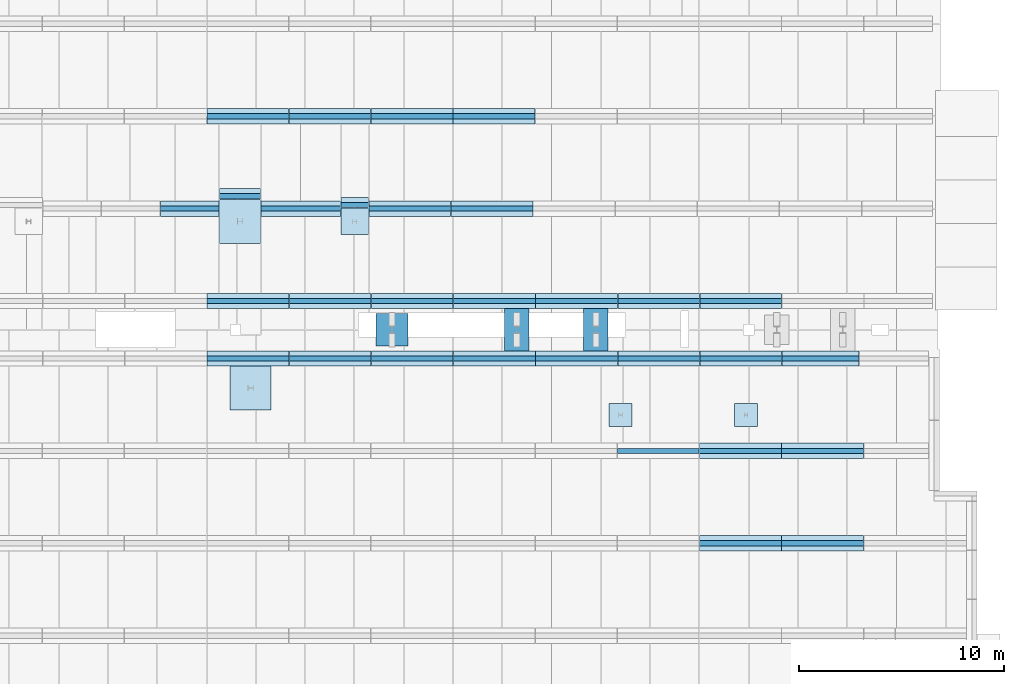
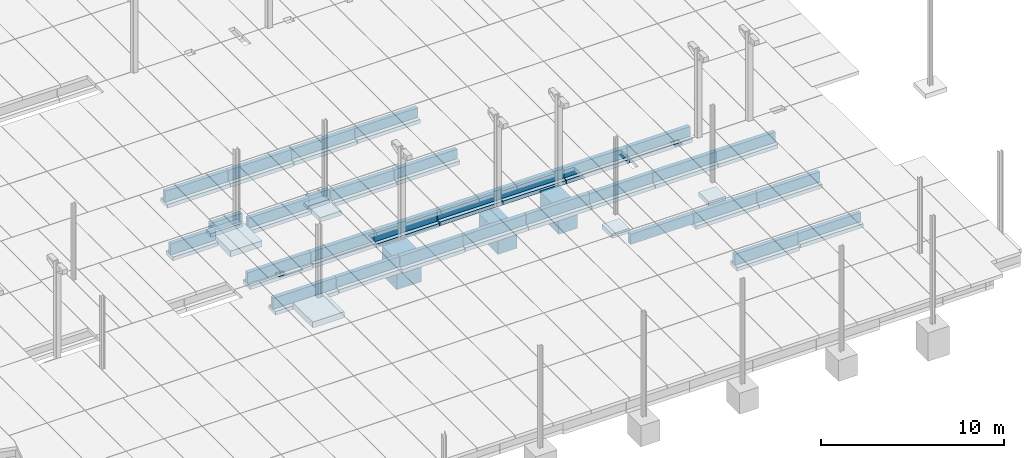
# One storey, part 4 of 59: 67 footings.
"""IFC2X3 building model written with IfcOpenShell, lengths in metres."""

from ifc_helpers import new_model, entity, si_unit, converted_unit, derived_unit, frame, frame_2d, origin, origin_with_axes, place, context, subcontext, project, spatial, polyline, rectangle, extrude, clip, bounded_halfspace, material, element, save


model = new_model("IFC2X3")

# Units and contexts
model_context = context("Model", 3, precision=1e-05, world=origin())
body_context = subcontext(model_context, "Body", "Model", "MODEL_VIEW")
ifc_project = project(units=[si_unit("LENGTHUNIT", "METRE"), si_unit("AREAUNIT", "SQUARE_METRE"), si_unit("VOLUMEUNIT", "CUBIC_METRE"), si_unit("MASSUNIT", "GRAM", prefix="KILO"), converted_unit("PLANEANGLEUNIT", "DEGREE", entity("IfcPlaneAngleMeasure", 0.0174532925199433), si_unit("PLANEANGLEUNIT", "RADIAN"), dimensions=[0, 0, 0, 0, 0, 0, 0]), derived_unit("THERMALTRANSMITTANCEUNIT", [(si_unit("POWERUNIT", "WATT"), 1), (si_unit("THERMODYNAMICTEMPERATUREUNIT", "KELVIN"), -1), (si_unit("LENGTHUNIT", "METRE"), -2)]), derived_unit("VOLUMETRICFLOWRATEUNIT", [(si_unit("LENGTHUNIT", "METRE"), 3), (converted_unit("TIMEUNIT", "hour", entity("IfcTimeMeasure", 3600.0), si_unit("TIMEUNIT", "SECOND"), dimensions=[0, 0, 1, 0, 0, 0, 0]), -1), (si_unit("LENGTHUNIT", "METRE"), -1)])], contexts=[model_context])

# Site, building, storey
site_placement = place(None, origin())
site = spatial("IfcSite", under=ifc_project, at=site_placement, Name="TWP_Speiseverteilzentrum SBW VZ II", CompositionType="ELEMENT")
building_placement = place(site_placement, origin())
building = spatial("IfcBuilding", under=site, at=building_placement, Name="Speiseverteilzentrum SBW VZ II", CompositionType="ELEMENT")
storey_placement = place(building_placement, frame((0.0, 0.0, 1.7307)))
storey = spatial("IfcBuildingStorey", under=building, at=storey_placement, Name="EG_Produktion_FFB", CompositionType="ELEMENT", Elevation=1.7307)

# Footings
ifc_material_1 = material(Name="Stahlbeton")
footing_1_placement = place(storey_placement, frame((59.3095236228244, 26.099939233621, -1.4)))
element("IfcFooting", 1, at=footing_1_placement, inside=storey, material=ifc_material_1, Name="Stb.-Einzelfundament", ObjectType="COLUMN_FOUNDATION", PredefinedType="USERDEFINED", context=body_context, shape_type="SweptSolid", body=[
    extrude(rectangle(XDim=1.1, YDim=1.1, at=frame_2d((0.55, 0.55), x_axis=(1.0, 0.0))), origin_with_axes(), (0.0, 0.0, 1.0), 0.3),
])
ifc_material_2 = material(Name="Stahlbeton")
footing_2_placement = place(storey_placement, frame((53.2, 26.099939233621, -1.4)))
element("IfcFooting", 2, at=footing_2_placement, inside=storey, material=ifc_material_2, Name="Stb.-Einzelfundament", ObjectType="COLUMN_FOUNDATION", PredefinedType="USERDEFINED", context=body_context, shape_type="SweptSolid", body=[
    extrude(rectangle(XDim=1.1, YDim=1.1, at=frame_2d((0.55, 0.55), x_axis=(1.0, 0.0))), origin_with_axes(), (0.0, 0.0, 1.0), 0.3),
])
ifc_material_3 = material(Name="Stahlbeton")
footing_3_placement = place(storey_placement, frame((34.7347565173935, 26.8849286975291, -1.4)))
element("IfcFooting", 3, at=footing_3_placement, inside=storey, material=ifc_material_3, Name="Stb.-Einzelfundament", ObjectType="COLUMN_FOUNDATION", PredefinedType="USERDEFINED", context=body_context, shape_type="Clipping", body=[
    clip(extrude(rectangle(XDim=2.0, YDim=2.15, at=frame_2d((1.0, 1.075), x_axis=(1.0, 0.0))), origin_with_axes(), (0.0, 0.0, 1.0), 0.4), bounded_halfspace(frame((1.0, 2.14503565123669, 0.2), z_axis=(0.0, 0.0, 1.0), x_axis=(1.0, 0.0, 0.0)), True, origin_with_axes(), polyline([(0.0, 2.14007130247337), (2.0, 2.14007130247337), (2.0, 2.15), (0.0, 2.15), (0.0, 2.14007130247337)]))),
])
ifc_material_4 = material(Name="Stahlbetonfertigteil")
footing_4_placement = place(storey_placement, frame((57.5999999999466, 24.5250000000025, -1.4)))
element("IfcFooting", 4, at=footing_4_placement, inside=storey, material=ifc_material_4, Name="Stahlbetonfertigteilfundament", PredefinedType="STRIP_FOOTING", context=body_context, shape_type="SweptSolid", body=[
    extrude(rectangle(XDim=0.75, YDim=0.25, at=frame_2d((0.375, 0.125), x_axis=(1.0, 0.0))), frame((0.0, 0.0, 0.0), z_axis=(1.0, 0.0, 0.0), x_axis=(0.0, 1.0, 0.0)), (0.0, 0.0, 1.0), 3.98),
])
ifc_material_5 = material(Name="Stahlbetonfertigteil")
footing_5_placement = place(storey_placement, frame((61.5999999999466, 24.5250000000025, -1.4)))
element("IfcFooting", 5, at=footing_5_placement, inside=storey, material=ifc_material_5, Name="Stahlbetonfertigteilfundament", PredefinedType="STRIP_FOOTING", context=body_context, shape_type="SweptSolid", body=[
    extrude(rectangle(XDim=0.75, YDim=0.25, at=frame_2d((0.375, 0.125), x_axis=(1.0, 0.0))), frame((0.0, 0.0, 0.0), z_axis=(1.0, 0.0, 0.0), x_axis=(0.0, 1.0, 0.0)), (0.0, 0.0, 1.0), 3.98),
])
ifc_material_6 = material(Name="Stahlbetonfertigteil")
footing_6_placement = place(storey_placement, frame((61.5999999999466, 24.7750000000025, -1.15)))
element("IfcFooting", 6, at=footing_6_placement, inside=storey, material=ifc_material_6, Name="Stahlbetonfertigteilfundament", PredefinedType="STRIP_FOOTING", context=body_context, shape_type="SweptSolid", body=[
    extrude(rectangle(XDim=0.25, YDim=0.68, at=frame_2d((0.125, 0.34), x_axis=(1.0, 0.0))), frame((0.0, 0.0, 0.0), z_axis=(1.0, 0.0, 0.0), x_axis=(0.0, 1.0, 0.0)), (0.0, 0.0, 1.0), 3.98),
])
ifc_material_7 = material(Name="Stahlbetonfertigteil")
footing_7_placement = place(storey_placement, frame((57.5999999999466, 24.7750000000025, -1.15)))
element("IfcFooting", 7, at=footing_7_placement, inside=storey, material=ifc_material_7, Name="Stahlbetonfertigteilfundament", PredefinedType="STRIP_FOOTING", context=body_context, shape_type="SweptSolid", body=[
    extrude(rectangle(XDim=0.25, YDim=0.68, at=frame_2d((0.125, 0.34), x_axis=(1.0, 0.0))), frame((0.0, 0.0, 0.0), z_axis=(1.0, 0.0, 0.0), x_axis=(0.0, 1.0, 0.0)), (0.0, 0.0, 1.0), 3.98),
])
ifc_material_8 = material(Name="Stahlbetonfertigteil")
footing_8_placement = place(storey_placement, frame((53.5999999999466, 24.7750000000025, -1.15)))
element("IfcFooting", 8, at=footing_8_placement, inside=storey, material=ifc_material_8, Name="Stahlbetonfertigteilfundament", PredefinedType="STRIP_FOOTING", context=body_context, shape_type="SweptSolid", body=[
    extrude(rectangle(XDim=0.25, YDim=0.68, at=frame_2d((0.125, 0.34), x_axis=(1.0, 0.0))), frame((0.0, 0.0, 0.0), z_axis=(1.0, 0.0, 0.0), x_axis=(0.0, 1.0, 0.0)), (0.0, 0.0, 1.0), 3.98),
])
ifc_material_9 = material(Name="Stahlbetonfertigteil")
footing_9_placement = place(storey_placement, frame((61.5999999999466, 20.2750000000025, -1.05)))
element("IfcFooting", 9, at=footing_9_placement, inside=storey, material=ifc_material_9, Name="Stahlbetonfertigteilfundament", PredefinedType="STRIP_FOOTING", context=body_context, shape_type="SweptSolid", body=[
    extrude(rectangle(XDim=0.25, YDim=0.58, at=frame_2d((0.125, 0.29), x_axis=(1.0, 0.0))), frame((0.0, 0.0, 0.0), z_axis=(1.0, 0.0, 0.0), x_axis=(0.0, 1.0, 0.0)), (0.0, 0.0, 1.0), 3.98),
])
ifc_material_10 = material(Name="Stahlbetonfertigteil")
footing_10_placement = place(storey_placement, frame((61.5999999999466, 20.0250000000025, -1.3)))
element("IfcFooting", 10, at=footing_10_placement, inside=storey, material=ifc_material_10, Name="Stahlbetonfertigteilfundament", PredefinedType="STRIP_FOOTING", context=body_context, shape_type="SweptSolid", body=[
    extrude(rectangle(XDim=0.75, YDim=0.25, at=frame_2d((0.375, 0.125), x_axis=(1.0, 0.0))), frame((0.0, 0.0, 0.0), z_axis=(1.0, 0.0, 0.0), x_axis=(0.0, 1.0, 0.0)), (0.0, 0.0, 1.0), 3.98),
])
ifc_material_11 = material(Name="Stahlbetonfertigteil")
footing_11_placement = place(storey_placement, frame((57.5999999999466, 20.0250000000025, -1.45)))
element("IfcFooting", 11, at=footing_11_placement, inside=storey, material=ifc_material_11, Name="Stahlbetonfertigteilfundament", PredefinedType="STRIP_FOOTING", context=body_context, shape_type="SweptSolid", body=[
    extrude(rectangle(XDim=0.75, YDim=0.25, at=frame_2d((0.375, 0.125), x_axis=(1.0, 0.0))), frame((0.0, 0.0, 0.0), z_axis=(1.0, 0.0, 0.0), x_axis=(0.0, 1.0, 0.0)), (0.0, 0.0, 1.0), 3.98),
])
ifc_material_12 = material(Name="Stahlbetonfertigteil")
footing_12_placement = place(storey_placement, frame((57.5999999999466, 20.2750000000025, -1.2)))
element("IfcFooting", 12, at=footing_12_placement, inside=storey, material=ifc_material_12, Name="Stahlbetonfertigteilfundament", PredefinedType="STRIP_FOOTING", context=body_context, shape_type="SweptSolid", body=[
    extrude(rectangle(XDim=0.25, YDim=0.73, at=frame_2d((0.125, 0.365), x_axis=(1.0, 0.0))), frame((0.0, 0.0, 0.0), z_axis=(1.0, 0.0, 0.0), x_axis=(0.0, 1.0, 0.0)), (0.0, 0.0, 1.0), 3.98),
])
ifc_material_13 = material(Name="Stahlbetonfertigteil")
footing_13_placement = place(storey_placement, frame((33.6199999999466, 29.2750000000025, -1.2)))
element("IfcFooting", 13, at=footing_13_placement, inside=storey, material=ifc_material_13, Name="Stahlbetonfertigteilfundament", PredefinedType="STRIP_FOOTING", context=body_context, shape_type="SweptSolid", body=[
    extrude(rectangle(XDim=0.25, YDim=0.73, at=frame_2d((0.125, 0.365), x_axis=(1.0, 0.0))), frame((0.0, 0.0, 0.0), z_axis=(1.0, 0.0, 0.0), x_axis=(0.0, 1.0, 0.0)), (0.0, 0.0, 1.0), 3.98),
])
ifc_material_14 = material(Name="Stahlbetonfertigteil")
footing_14_placement = place(storey_placement, frame((33.6200000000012, 31.8250000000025, -1.45)))
element("IfcFooting", 14, at=footing_14_placement, inside=storey, material=ifc_material_14, Name="Stahlbetonfertigteilfundament", PredefinedType="STRIP_FOOTING", context=body_context, shape_type="SweptSolid", body=[
    extrude(rectangle(XDim=0.75, YDim=0.25, at=frame_2d((0.375, 0.125), x_axis=(1.0, 0.0))), frame((0.0, 0.0, 0.0), z_axis=(1.0, 0.0, 0.0), x_axis=(0.0, 1.0, 0.0)), (0.0, 0.0, 1.0), 3.98),
])
ifc_material_15 = material(Name="Stahlbetonfertigteil")
footing_15_placement = place(storey_placement, frame((33.6200000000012, 32.0750000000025, -1.2)))
element("IfcFooting", 15, at=footing_15_placement, inside=storey, material=ifc_material_15, Name="Stahlbetonfertigteilfundament", PredefinedType="STRIP_FOOTING", context=body_context, shape_type="SweptSolid", body=[
    extrude(rectangle(XDim=0.25, YDim=0.73, at=frame_2d((0.125, 0.365), x_axis=(1.0, 0.0))), frame((0.0, 0.0, 0.0), z_axis=(1.0, 0.0, 0.0), x_axis=(0.0, 1.0, 0.0)), (0.0, 0.0, 1.0), 3.98),
])
ifc_material_16 = material(Name="Stahlbetonfertigteil")
footing_16_placement = place(storey_placement, frame((37.6200000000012, 31.8250000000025, -1.4)))
element("IfcFooting", 16, at=footing_16_placement, inside=storey, material=ifc_material_16, Name="Stahlbetonfertigteilfundament", PredefinedType="STRIP_FOOTING", context=body_context, shape_type="SweptSolid", body=[
    extrude(rectangle(XDim=0.75, YDim=0.25, at=frame_2d((0.375, 0.125), x_axis=(1.0, 0.0))), frame((0.0, 0.0, 0.0), z_axis=(1.0, 0.0, 0.0), x_axis=(0.0, 1.0, 0.0)), (0.0, 0.0, 1.0), 3.98),
])
ifc_material_17 = material(Name="Stahlbetonfertigteil")
footing_17_placement = place(storey_placement, frame((37.6200000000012, 32.0750000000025, -1.15)))
element("IfcFooting", 17, at=footing_17_placement, inside=storey, material=ifc_material_17, Name="Stahlbetonfertigteilfundament", PredefinedType="STRIP_FOOTING", context=body_context, shape_type="SweptSolid", body=[
    extrude(rectangle(XDim=0.25, YDim=0.68, at=frame_2d((0.125, 0.34), x_axis=(1.0, 0.0))), frame((0.0, 0.0, 0.0), z_axis=(1.0, 0.0, 0.0), x_axis=(0.0, 1.0, 0.0)), (0.0, 0.0, 1.0), 3.98),
])
ifc_material_18 = material(Name="Stahlbetonfertigteil")
footing_18_placement = place(storey_placement, frame((37.6199999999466, 29.0250000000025, -1.4)))
element("IfcFooting", 18, at=footing_18_placement, inside=storey, material=ifc_material_18, Name="Stahlbetonfertigteilfundament", PredefinedType="STRIP_FOOTING", context=body_context, shape_type="SweptSolid", body=[
    extrude(rectangle(XDim=0.75, YDim=0.25, at=frame_2d((0.375, 0.125), x_axis=(1.0, 0.0))), frame((0.0, 0.0, 0.0), z_axis=(1.0, 0.0, 0.0), x_axis=(0.0, 1.0, 0.0)), (0.0, 0.0, 1.0), 3.98),
])
ifc_material_19 = material(Name="Stahlbetonfertigteil")
footing_19_placement = place(storey_placement, frame((37.6199999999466, 29.2750000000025, -1.15)))
element("IfcFooting", 19, at=footing_19_placement, inside=storey, material=ifc_material_19, Name="Stahlbetonfertigteilfundament", PredefinedType="STRIP_FOOTING", context=body_context, shape_type="SweptSolid", body=[
    extrude(rectangle(XDim=0.25, YDim=0.68, at=frame_2d((0.125, 0.34), x_axis=(1.0, 0.0))), frame((0.0, 0.0, 0.0), z_axis=(1.0, 0.0, 0.0), x_axis=(0.0, 1.0, 0.0)), (0.0, 0.0, 1.0), 3.98),
])
ifc_material_20 = material(Name="Stahlbetonfertigteil")
footing_20_placement = place(storey_placement, frame((45.6199999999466, 32.0750000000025, -1.125)))
element("IfcFooting", 20, at=footing_20_placement, inside=storey, material=ifc_material_20, Name="Stahlbetonfertigteilfundament", PredefinedType="STRIP_FOOTING", context=body_context, shape_type="SweptSolid", body=[
    extrude(rectangle(XDim=0.25, YDim=0.655, at=frame_2d((0.125, 0.3275), x_axis=(1.0, 0.0))), frame((0.0, 0.0, 0.0), z_axis=(1.0, 0.0, 0.0), x_axis=(0.0, 1.0, 0.0)), (0.0, 0.0, 1.0), 3.98),
])
ifc_material_21 = material(Name="Stahlbetonfertigteil")
footing_21_placement = place(storey_placement, frame((49.6199999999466, 32.0750000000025, -1.125)))
element("IfcFooting", 21, at=footing_21_placement, inside=storey, material=ifc_material_21, Name="Stahlbetonfertigteilfundament", PredefinedType="STRIP_FOOTING", context=body_context, shape_type="SweptSolid", body=[
    extrude(rectangle(XDim=0.25, YDim=0.655, at=frame_2d((0.125, 0.3275), x_axis=(1.0, 0.0))), frame((0.0, 0.0, 0.0), z_axis=(1.0, 0.0, 0.0), x_axis=(0.0, 1.0, 0.0)), (0.0, 0.0, 1.0), 3.98),
])
ifc_material_22 = material(Name="Stahlbetonfertigteil")
footing_22_placement = place(storey_placement, frame((49.6199999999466, 29.0250000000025, -1.4)))
element("IfcFooting", 22, at=footing_22_placement, inside=storey, material=ifc_material_22, Name="Stahlbetonfertigteilfundament", PredefinedType="STRIP_FOOTING", context=body_context, shape_type="SweptSolid", body=[
    extrude(rectangle(XDim=0.75, YDim=0.25, at=frame_2d((0.375, 0.125), x_axis=(1.0, 0.0))), frame((0.0, 0.0, 0.0), z_axis=(1.0, 0.0, 0.0), x_axis=(0.0, 1.0, 0.0)), (0.0, 0.0, 1.0), 3.98),
])
ifc_material_23 = material(Name="Stahlbetonfertigteil")
footing_23_placement = place(storey_placement, frame((49.6199999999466, 29.2750000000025, -1.15)))
element("IfcFooting", 23, at=footing_23_placement, inside=storey, material=ifc_material_23, Name="Stahlbetonfertigteilfundament", PredefinedType="STRIP_FOOTING", context=body_context, shape_type="SweptSolid", body=[
    extrude(rectangle(XDim=0.25, YDim=0.68, at=frame_2d((0.125, 0.34), x_axis=(1.0, 0.0))), frame((0.0, 0.0, 0.0), z_axis=(1.0, 0.0, 0.0), x_axis=(0.0, 1.0, 0.0)), (0.0, 0.0, 1.0), 3.98),
])
ifc_material_24 = material(Name="Stahlbetonfertigteil")
footing_24_placement = place(storey_placement, frame((45.6199999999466, 29.2750000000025, -1.15)))
element("IfcFooting", 24, at=footing_24_placement, inside=storey, material=ifc_material_24, Name="Stahlbetonfertigteilfundament", PredefinedType="STRIP_FOOTING", context=body_context, shape_type="SweptSolid", body=[
    extrude(rectangle(XDim=0.25, YDim=0.68, at=frame_2d((0.125, 0.34), x_axis=(1.0, 0.0))), frame((0.0, 0.0, 0.0), z_axis=(1.0, 0.0, 0.0), x_axis=(0.0, 1.0, 0.0)), (0.0, 0.0, 1.0), 3.98),
])
ifc_material_25 = material(Name="Stahlbetonfertigteil")
footing_25_placement = place(storey_placement, frame((53.6199999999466, 32.0750000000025, -1.125)))
element("IfcFooting", 25, at=footing_25_placement, inside=storey, material=ifc_material_25, Name="Stahlbetonfertigteilfundament", PredefinedType="STRIP_FOOTING", context=body_context, shape_type="SweptSolid", body=[
    extrude(rectangle(XDim=0.25, YDim=0.655, at=frame_2d((0.125, 0.3275), x_axis=(1.0, 0.0))), frame((0.0, 0.0, 0.0), z_axis=(1.0, 0.0, 0.0), x_axis=(0.0, 1.0, 0.0)), (0.0, 0.0, 1.0), 3.98),
])
ifc_material_26 = material(Name="Stahlbetonfertigteil")
footing_26_placement = place(storey_placement, frame((53.6199999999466, 29.0250000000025, -1.4)))
element("IfcFooting", 26, at=footing_26_placement, inside=storey, material=ifc_material_26, Name="Stahlbetonfertigteilfundament", PredefinedType="STRIP_FOOTING", context=body_context, shape_type="SweptSolid", body=[
    extrude(rectangle(XDim=0.75, YDim=0.25, at=frame_2d((0.375, 0.125), x_axis=(1.0, 0.0))), frame((0.0, 0.0, 0.0), z_axis=(1.0, 0.0, 0.0), x_axis=(0.0, 1.0, 0.0)), (0.0, 0.0, 1.0), 3.98),
])
ifc_material_27 = material(Name="Stahlbetonfertigteil")
footing_27_placement = place(storey_placement, frame((53.6199999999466, 29.2750000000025, -1.15)))
element("IfcFooting", 27, at=footing_27_placement, inside=storey, material=ifc_material_27, Name="Stahlbetonfertigteilfundament", PredefinedType="STRIP_FOOTING", context=body_context, shape_type="SweptSolid", body=[
    extrude(rectangle(XDim=0.25, YDim=0.68, at=frame_2d((0.125, 0.34), x_axis=(1.0, 0.0))), frame((0.0, 0.0, 0.0), z_axis=(1.0, 0.0, 0.0), x_axis=(0.0, 1.0, 0.0)), (0.0, 0.0, 1.0), 3.98),
])
ifc_material_28 = material(Name="Stahlbetonfertigteil")
footing_28_placement = place(storey_placement, frame((53.6199999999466, 31.8250000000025, -1.375)))
element("IfcFooting", 28, at=footing_28_placement, inside=storey, material=ifc_material_28, Name="Stahlbetonfertigteilfundament", PredefinedType="STRIP_FOOTING", context=body_context, shape_type="SweptSolid", body=[
    extrude(rectangle(XDim=0.75, YDim=0.25, at=frame_2d((0.375, 0.125), x_axis=(1.0, 0.0))), frame((0.0, 0.0, 0.0), z_axis=(1.0, 0.0, 0.0), x_axis=(0.0, 1.0, 0.0)), (0.0, 0.0, 1.0), 3.98),
])
ifc_material_29 = material(Name="Stahlbetonfertigteil")
footing_29_placement = place(storey_placement, frame((57.6199999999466, 32.0750000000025, -1.125)))
element("IfcFooting", 29, at=footing_29_placement, inside=storey, material=ifc_material_29, Name="Stahlbetonfertigteilfundament", PredefinedType="STRIP_FOOTING", context=body_context, shape_type="SweptSolid", body=[
    extrude(rectangle(XDim=0.25, YDim=0.655, at=frame_2d((0.125, 0.3275), x_axis=(1.0, 0.0))), frame((0.0, 0.0, 0.0), z_axis=(1.0, 0.0, 0.0), x_axis=(0.0, 1.0, 0.0)), (0.0, 0.0, 1.0), 3.98),
])
ifc_material_30 = material(Name="Stahlbetonfertigteil")
footing_30_placement = place(storey_placement, frame((57.6199999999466, 29.2750000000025, -1.15)))
element("IfcFooting", 30, at=footing_30_placement, inside=storey, material=ifc_material_30, Name="Stahlbetonfertigteilfundament", PredefinedType="STRIP_FOOTING", context=body_context, shape_type="SweptSolid", body=[
    extrude(rectangle(XDim=0.25, YDim=0.68, at=frame_2d((0.125, 0.34), x_axis=(1.0, 0.0))), frame((0.0, 0.0, 0.0), z_axis=(1.0, 0.0, 0.0), x_axis=(0.0, 1.0, 0.0)), (0.0, 0.0, 1.0), 3.98),
])
ifc_material_31 = material(Name="Stahlbetonfertigteil")
footing_31_placement = place(storey_placement, frame((61.6199999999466, 29.2750000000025, -1.15)))
element("IfcFooting", 31, at=footing_31_placement, inside=storey, material=ifc_material_31, Name="Stahlbetonfertigteilfundament", PredefinedType="STRIP_FOOTING", context=body_context, shape_type="SweptSolid", body=[
    extrude(rectangle(XDim=0.25, YDim=0.68, at=frame_2d((0.125, 0.34), x_axis=(1.0, 0.0))), frame((0.0, 0.0, 0.0), z_axis=(1.0, 0.0, 0.0), x_axis=(0.0, 1.0, 0.0)), (0.0, 0.0, 1.0), 3.75583333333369),
])
ifc_material_32 = material(Name="Stahlbetonfertigteil")
footing_32_placement = place(storey_placement, frame((41.6199999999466, 29.2750000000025, -1.2)))
element("IfcFooting", 32, at=footing_32_placement, inside=storey, material=ifc_material_32, Name="Stahlbetonfertigteilfundament", PredefinedType="STRIP_FOOTING", context=body_context, shape_type="SweptSolid", body=[
    extrude(rectangle(XDim=0.25, YDim=0.73, at=frame_2d((0.125, 0.365), x_axis=(1.0, 0.0))), frame((0.0, 0.0, 0.0), z_axis=(1.0, 0.0, 0.0), x_axis=(0.0, 1.0, 0.0)), (0.0, 0.0, 1.0), 3.98),
])
ifc_material_33 = material(Name="Stahlbetonfertigteil")
footing_33_placement = place(storey_placement, frame((41.6199999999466, 29.0250000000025, -1.45)))
element("IfcFooting", 33, at=footing_33_placement, inside=storey, material=ifc_material_33, Name="Stahlbetonfertigteilfundament", PredefinedType="STRIP_FOOTING", context=body_context, shape_type="SweptSolid", body=[
    extrude(rectangle(XDim=0.75, YDim=0.25, at=frame_2d((0.375, 0.125), x_axis=(1.0, 0.0))), frame((0.0, 0.0, 0.0), z_axis=(1.0, 0.0, 0.0), x_axis=(0.0, 1.0, 0.0)), (0.0, 0.0, 1.0), 3.98),
])
ifc_material_34 = material(Name="Stahlbetonfertigteil")
footing_34_placement = place(storey_placement, frame((41.6199999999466, 32.0750000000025, -1.2)))
element("IfcFooting", 34, at=footing_34_placement, inside=storey, material=ifc_material_34, Name="Stahlbetonfertigteilfundament", PredefinedType="STRIP_FOOTING", context=body_context, shape_type="SweptSolid", body=[
    extrude(rectangle(XDim=0.25, YDim=0.73, at=frame_2d((0.125, 0.365), x_axis=(1.0, 0.0))), frame((0.0, 0.0, 0.0), z_axis=(1.0, 0.0, 0.0), x_axis=(0.0, 1.0, 0.0)), (0.0, 0.0, 1.0), 3.98),
])
ifc_material_35 = material(Name="Stahlbetonfertigteil")
footing_35_placement = place(storey_placement, frame((41.6199999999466, 31.8250000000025, -1.45)))
element("IfcFooting", 35, at=footing_35_placement, inside=storey, material=ifc_material_35, Name="Stahlbetonfertigteilfundament", PredefinedType="STRIP_FOOTING", context=body_context, shape_type="SweptSolid", body=[
    extrude(rectangle(XDim=0.75, YDim=0.25, at=frame_2d((0.375, 0.125), x_axis=(1.0, 0.0))), frame((0.0, 0.0, 0.0), z_axis=(1.0, 0.0, 0.0), x_axis=(0.0, 1.0, 0.0)), (0.0, 0.0, 1.0), 3.98),
])
ifc_material_36 = material(Name="Stahlbetonfertigteil")
footing_36_placement = place(storey_placement, frame((49.6199999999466, 31.8250000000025, -1.375)))
element("IfcFooting", 36, at=footing_36_placement, inside=storey, material=ifc_material_36, Name="Stahlbetonfertigteilfundament", PredefinedType="STRIP_FOOTING", context=body_context, shape_type="SweptSolid", body=[
    extrude(rectangle(XDim=0.75, YDim=0.25, at=frame_2d((0.375, 0.125), x_axis=(1.0, 0.0))), frame((0.0, 0.0, 0.0), z_axis=(1.0, 0.0, 0.0), x_axis=(0.0, 1.0, 0.0)), (0.0, 0.0, 1.0), 3.98),
])
ifc_material_37 = material(Name="Stahlbetonfertigteil")
footing_37_placement = place(storey_placement, frame((33.6199999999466, 29.0250000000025, -1.45)))
element("IfcFooting", 37, at=footing_37_placement, inside=storey, material=ifc_material_37, Name="Stahlbetonfertigteilfundament", PredefinedType="STRIP_FOOTING", context=body_context, shape_type="SweptSolid", body=[
    extrude(rectangle(XDim=0.75, YDim=0.25, at=frame_2d((0.375, 0.125), x_axis=(1.0, 0.0))), frame((0.0, 0.0, 0.0), z_axis=(1.0, 0.0, 0.0), x_axis=(0.0, 1.0, 0.0)), (0.0, 0.0, 1.0), 3.98),
])
ifc_material_38 = material(Name="Stahlbetonfertigteil")
footing_38_placement = place(storey_placement, frame((33.5999999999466, 41.0750000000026, -1.2)))
element("IfcFooting", 38, at=footing_38_placement, inside=storey, material=ifc_material_38, Name="Stahlbetonfertigteilfundament", PredefinedType="STRIP_FOOTING", context=body_context, shape_type="SweptSolid", body=[
    extrude(rectangle(XDim=0.25, YDim=0.73, at=frame_2d((0.125, 0.365), x_axis=(1.0, 0.0))), frame((0.0, 0.0, 0.0), z_axis=(1.0, 0.0, 0.0), x_axis=(0.0, 1.0, 0.0)), (0.0, 0.0, 1.0), 3.98),
])
ifc_material_39 = material(Name="Stahlbetonfertigteil")
footing_39_placement = place(storey_placement, frame((33.5999999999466, 40.8250000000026, -1.45)))
element("IfcFooting", 39, at=footing_39_placement, inside=storey, material=ifc_material_39, Name="Stahlbetonfertigteilfundament", PredefinedType="STRIP_FOOTING", context=body_context, shape_type="SweptSolid", body=[
    extrude(rectangle(XDim=0.75, YDim=0.25, at=frame_2d((0.375, 0.125), x_axis=(1.0, 0.0))), frame((0.0, 0.0, 0.0), z_axis=(1.0, 0.0, 0.0), x_axis=(0.0, 1.0, 0.0)), (0.0, 0.0, 1.0), 3.98),
])
ifc_material_40 = material(Name="Stahlbetonfertigteil")
footing_40_placement = place(storey_placement, frame((37.5999999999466, 41.0750000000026, -1.2)))
element("IfcFooting", 40, at=footing_40_placement, inside=storey, material=ifc_material_40, Name="Stahlbetonfertigteilfundament", PredefinedType="STRIP_FOOTING", context=body_context, shape_type="SweptSolid", body=[
    extrude(rectangle(XDim=0.25, YDim=0.73, at=frame_2d((0.125, 0.365), x_axis=(1.0, 0.0))), frame((0.0, 0.0, 0.0), z_axis=(1.0, 0.0, 0.0), x_axis=(0.0, 1.0, 0.0)), (0.0, 0.0, 1.0), 3.98),
])
ifc_material_41 = material(Name="Stahlbetonfertigteil")
footing_41_placement = place(storey_placement, frame((37.5999999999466, 40.8250000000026, -1.45)))
element("IfcFooting", 41, at=footing_41_placement, inside=storey, material=ifc_material_41, Name="Stahlbetonfertigteilfundament", PredefinedType="STRIP_FOOTING", context=body_context, shape_type="SweptSolid", body=[
    extrude(rectangle(XDim=0.75, YDim=0.25, at=frame_2d((0.375, 0.125), x_axis=(1.0, 0.0))), frame((0.0, 0.0, 0.0), z_axis=(1.0, 0.0, 0.0), x_axis=(0.0, 1.0, 0.0)), (0.0, 0.0, 1.0), 3.98),
])
ifc_material_42 = material(Name="Stahlbetonfertigteil")
footing_42_placement = place(storey_placement, frame((41.5999999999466, 41.0750000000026, -1.15)))
element("IfcFooting", 42, at=footing_42_placement, inside=storey, material=ifc_material_42, Name="Stahlbetonfertigteilfundament", PredefinedType="STRIP_FOOTING", context=body_context, shape_type="SweptSolid", body=[
    extrude(rectangle(XDim=0.25, YDim=0.68, at=frame_2d((0.125, 0.34), x_axis=(1.0, 0.0))), frame((0.0, 0.0, 0.0), z_axis=(1.0, 0.0, 0.0), x_axis=(0.0, 1.0, 0.0)), (0.0, 0.0, 1.0), 3.98),
])
ifc_material_43 = material(Name="Stahlbetonfertigteil")
footing_43_placement = place(storey_placement, frame((41.5999999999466, 40.8250000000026, -1.4)))
element("IfcFooting", 43, at=footing_43_placement, inside=storey, material=ifc_material_43, Name="Stahlbetonfertigteilfundament", PredefinedType="STRIP_FOOTING", context=body_context, shape_type="SweptSolid", body=[
    extrude(rectangle(XDim=0.75, YDim=0.25, at=frame_2d((0.375, 0.125), x_axis=(1.0, 0.0))), frame((0.0, 0.0, 0.0), z_axis=(1.0, 0.0, 0.0), x_axis=(0.0, 1.0, 0.0)), (0.0, 0.0, 1.0), 3.98),
])
ifc_material_44 = material(Name="Stahlbetonfertigteil")
footing_44_placement = place(storey_placement, frame((45.5999999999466, 41.0750000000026, -1.1)))
element("IfcFooting", 44, at=footing_44_placement, inside=storey, material=ifc_material_44, Name="Stahlbetonfertigteilfundament", PredefinedType="STRIP_FOOTING", context=body_context, shape_type="SweptSolid", body=[
    extrude(rectangle(XDim=0.25, YDim=0.63, at=frame_2d((0.125, 0.315), x_axis=(1.0, 0.0))), frame((0.0, 0.0, 0.0), z_axis=(1.0, 0.0, 0.0), x_axis=(0.0, 1.0, 0.0)), (0.0, 0.0, 1.0), 3.98),
])
ifc_material_45 = material(Name="Stahlbetonfertigteil")
footing_45_placement = place(storey_placement, frame((45.5999999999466, 40.8250000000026, -1.35)))
element("IfcFooting", 45, at=footing_45_placement, inside=storey, material=ifc_material_45, Name="Stahlbetonfertigteilfundament", PredefinedType="STRIP_FOOTING", context=body_context, shape_type="SweptSolid", body=[
    extrude(rectangle(XDim=0.75, YDim=0.25, at=frame_2d((0.375, 0.125), x_axis=(1.0, 0.0))), frame((0.0, 0.0, 0.0), z_axis=(1.0, 0.0, 0.0), x_axis=(0.0, 1.0, 0.0)), (0.0, 0.0, 1.0), 3.98),
])
ifc_material_46 = material(Name="Stahlbeton")
footing_46_placement = place(storey_placement, frame((41.8500000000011, 30.0001031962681, -3.22)))
element("IfcFooting", 46, at=footing_46_placement, inside=storey, material=ifc_material_46, Name="Stb.-Einzelfundament", ObjectType="COLUMN_FOUNDATION", PredefinedType="USERDEFINED", context=body_context, shape_type="SweptSolid", body=[
    extrude(rectangle(XDim=1.55, YDim=1.6, at=frame_2d((0.775, 0.8), x_axis=(1.0, 0.0))), origin_with_axes(), (0.0, 0.0, 1.0), 1.95),
])
ifc_material_47 = material(Name="Stahlbetonfertigteil")
footing_47_placement = place(storey_placement, frame((45.6199999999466, 31.8250000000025, -1.375)))
element("IfcFooting", 47, at=footing_47_placement, inside=storey, material=ifc_material_47, Name="Stahlbetonfertigteilfundament", PredefinedType="STRIP_FOOTING", context=body_context, shape_type="SweptSolid", body=[
    extrude(rectangle(XDim=0.75, YDim=0.25, at=frame_2d((0.375, 0.125), x_axis=(1.0, 0.0))), frame((0.0, 0.0, 0.0), z_axis=(1.0, 0.0, 0.0), x_axis=(0.0, 1.0, 0.0)), (0.0, 0.0, 1.0), 3.98),
])
ifc_material_48 = material(Name="Stahlbetonfertigteil")
footing_48_placement = place(storey_placement, frame((45.6199999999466, 29.0250000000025, -1.4)))
element("IfcFooting", 48, at=footing_48_placement, inside=storey, material=ifc_material_48, Name="Stahlbetonfertigteilfundament", PredefinedType="STRIP_FOOTING", context=body_context, shape_type="SweptSolid", body=[
    extrude(rectangle(XDim=0.75, YDim=0.25, at=frame_2d((0.375, 0.125), x_axis=(1.0, 0.0))), frame((0.0, 0.0, 0.0), z_axis=(1.0, 0.0, 0.0), x_axis=(0.0, 1.0, 0.0)), (0.0, 0.0, 1.0), 3.98),
])
ifc_material_49 = material(Name="Stahlbeton")
footing_49_placement = place(storey_placement, frame((48.1000000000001, 29.7751031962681, -2.92)))
element("IfcFooting", 49, at=footing_49_placement, inside=storey, material=ifc_material_49, Name="Stb.-Einzelfundament", ObjectType="COLUMN_FOUNDATION", PredefinedType="USERDEFINED", context=body_context, shape_type="SweptSolid", body=[
    extrude(rectangle(XDim=1.2, YDim=2.05, at=frame_2d((0.6, 1.025), x_axis=(1.0, 0.0))), origin_with_axes(), (0.0, 0.0, 1.0), 1.5),
])
ifc_material_50 = material(Name="Stahlbeton")
footing_50_placement = place(storey_placement, frame((51.9500000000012, 29.7751031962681, -2.92)))
element("IfcFooting", 50, at=footing_50_placement, inside=storey, material=ifc_material_50, Name="Stb.-Einzelfundament", ObjectType="COLUMN_FOUNDATION", PredefinedType="USERDEFINED", context=body_context, shape_type="Clipping", body=[
    clip(extrude(rectangle(XDim=1.2, YDim=2.05, at=frame_2d((0.6, 1.025), x_axis=(1.0, 0.0))), origin_with_axes(), (0.0, 0.0, 1.0), 1.65), bounded_halfspace(frame((0.6, 2.04994840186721, 1.545), z_axis=(-4.736951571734e-17, 5.5082825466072e-13, -1.0), x_axis=(0.0, -1.0, -1.10165650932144e-12)), True, origin_with_axes(), polyline([(0.0, 2.05), (0.0, 2.04989680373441), (1.2, 2.04989680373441), (1.2, 2.05), (0.0, 2.05)]))),
])
ifc_material_51 = material(Name="Stahlbetonfertigteil")
footing_51_placement = place(storey_placement, frame((57.6199999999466, 31.8250000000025, -1.375)))
element("IfcFooting", 51, at=footing_51_placement, inside=storey, material=ifc_material_51, Name="Stahlbetonfertigteilfundament", PredefinedType="STRIP_FOOTING", context=body_context, shape_type="SweptSolid", body=[
    extrude(rectangle(XDim=0.75, YDim=0.25, at=frame_2d((0.375, 0.125), x_axis=(1.0, 0.0))), frame((0.0, 0.0, 0.0), z_axis=(1.0, 0.0, 0.0), x_axis=(0.0, 1.0, 0.0)), (0.0, 0.0, 1.0), 3.98),
])
ifc_material_52 = material(Name="Stahlbetonfertigteil")
footing_52_placement = place(storey_placement, frame((57.6199999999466, 29.0250000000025, -1.4)))
element("IfcFooting", 52, at=footing_52_placement, inside=storey, material=ifc_material_52, Name="Stahlbetonfertigteilfundament", PredefinedType="STRIP_FOOTING", context=body_context, shape_type="SweptSolid", body=[
    extrude(rectangle(XDim=0.75, YDim=0.25, at=frame_2d((0.375, 0.125), x_axis=(1.0, 0.0))), frame((0.0, 0.0, 0.0), z_axis=(1.0, 0.0, 0.0), x_axis=(0.0, 1.0, 0.0)), (0.0, 0.0, 1.0), 3.98),
])
ifc_material_53 = material(Name="Stahlbetonfertigteil")
footing_53_placement = place(storey_placement, frame((61.6199999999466, 29.0250000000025, -1.4)))
element("IfcFooting", 53, at=footing_53_placement, inside=storey, material=ifc_material_53, Name="Stahlbetonfertigteilfundament", PredefinedType="STRIP_FOOTING", context=body_context, shape_type="SweptSolid", body=[
    extrude(rectangle(XDim=0.75, YDim=0.25, at=frame_2d((0.375, 0.125), x_axis=(1.0, 0.0))), frame((0.0, 0.0, 0.0), z_axis=(1.0, 0.0, 0.0), x_axis=(0.0, 1.0, 0.0)), (0.0, 0.0, 1.0), 3.75583333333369),
])
ifc_material_54 = material(Name="Stahlbeton")
footing_54_placement = place(storey_placement, frame((34.2247583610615, 35.0048478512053, -1.4)))
element("IfcFooting", 54, at=footing_54_placement, inside=storey, material=ifc_material_54, Name="Stb.-Einzelfundament", ObjectType="COLUMN_FOUNDATION", PredefinedType="USERDEFINED", context=body_context, shape_type="SweptSolid", body=[
    extrude(rectangle(XDim=2.0, YDim=2.15, at=frame_2d((1.0, 1.075), x_axis=(1.0, 0.0))), origin_with_axes(), (0.0, 0.0, 1.0), 0.4),
])
ifc_material_55 = material(Name="Stahlbetonfertigteil")
footing_55_placement = place(storey_placement, frame((31.3497924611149, 36.3250000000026, -1.45)))
element("IfcFooting", 55, at=footing_55_placement, inside=storey, material=ifc_material_55, Name="Stahlbetonfertigteilfundament", PredefinedType="STRIP_FOOTING", context=body_context, shape_type="SweptSolid", body=[
    extrude(rectangle(XDim=0.75, YDim=0.25, at=frame_2d((0.375, 0.125), x_axis=(1.0, 0.0))), frame((0.0, 0.0, 0.0), z_axis=(1.0, 0.0, 0.0), x_axis=(0.0, 1.0, 0.0)), (0.0, 0.0, 1.0), 2.84996589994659),
])
ifc_material_56 = material(Name="Stahlbetonfertigteil")
footing_56_placement = place(storey_placement, frame((31.3497924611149, 36.5750000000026, -1.2)))
element("IfcFooting", 56, at=footing_56_placement, inside=storey, material=ifc_material_56, Name="Stahlbetonfertigteilfundament", PredefinedType="STRIP_FOOTING", context=body_context, shape_type="SweptSolid", body=[
    extrude(rectangle(XDim=0.25, YDim=0.73, at=frame_2d((0.125, 0.365), x_axis=(1.0, 0.0))), frame((0.0, 0.0, 0.0), z_axis=(1.0, 0.0, 0.0), x_axis=(0.0, 1.0, 0.0)), (0.0, 0.0, 1.0), 2.84996589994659),
])
ifc_material_57 = material(Name="Stahlbetonfertigteil")
footing_57_placement = place(storey_placement, frame((34.2247583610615, 37.1748478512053, -1.4)))
element("IfcFooting", 57, at=footing_57_placement, inside=storey, material=ifc_material_57, Name="Stahlbetonfertigteilfundament", PredefinedType="STRIP_FOOTING", context=body_context, shape_type="SweptSolid", body=[
    extrude(rectangle(XDim=0.5, YDim=0.25, at=frame_2d((0.25, 0.125), x_axis=(1.0, 0.0))), frame((0.0, 0.0, 0.0), z_axis=(1.0, 0.0, 0.0), x_axis=(0.0, 1.0, 0.0)), (0.0, 0.0, 1.0), 2.0),
])
ifc_material_58 = material(Name="Stahlbetonfertigteil")
footing_58_placement = place(storey_placement, frame((34.2247583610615, 37.1748478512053, -1.15)))
element("IfcFooting", 58, at=footing_58_placement, inside=storey, material=ifc_material_58, Name="Stahlbetonfertigteilfundament", PredefinedType="STRIP_FOOTING", context=body_context, shape_type="SweptSolid", body=[
    extrude(rectangle(XDim=0.25, YDim=0.68, at=frame_2d((0.125, 0.34), x_axis=(1.0, 0.0))), frame((0.0, 0.0, 0.0), z_axis=(1.0, 0.0, 0.0), x_axis=(0.0, 1.0, 0.0)), (0.0, 0.0, 1.0), 2.0),
])
ifc_material_59 = material(Name="Stahlbetonfertigteil")
footing_59_placement = place(storey_placement, frame((40.1297040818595, 36.7498478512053, -1.15)))
element("IfcFooting", 59, at=footing_59_placement, inside=storey, material=ifc_material_59, Name="Stahlbetonfertigteilfundament", PredefinedType="STRIP_FOOTING", context=body_context, shape_type="SweptSolid", body=[
    extrude(rectangle(XDim=0.25, YDim=0.68, at=frame_2d((0.125, 0.34), x_axis=(1.0, 0.0))), frame((0.0, 0.0, 0.0), z_axis=(1.0, 0.0, 0.0), x_axis=(0.0, 1.0, 0.0)), (0.0, 0.0, 1.0), 1.35),
])
ifc_material_60 = material(Name="Stahlbetonfertigteil")
footing_60_placement = place(storey_placement, frame((40.1297040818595, 36.7498478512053, -1.4)))
element("IfcFooting", 60, at=footing_60_placement, inside=storey, material=ifc_material_60, Name="Stahlbetonfertigteilfundament", PredefinedType="STRIP_FOOTING", context=body_context, shape_type="SweptSolid", body=[
    extrude(rectangle(XDim=0.5, YDim=0.25, at=frame_2d((0.25, 0.125), x_axis=(1.0, 0.0))), frame((0.0, 0.0, 0.0), z_axis=(1.0, 0.0, 0.0), x_axis=(0.0, 1.0, 0.0)), (0.0, 0.0, 1.0), 1.35),
])
ifc_material_61 = material(Name="Stahlbeton")
footing_61_placement = place(storey_placement, frame((40.1297040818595, 35.4298478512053, -1.4)))
element("IfcFooting", 61, at=footing_61_placement, inside=storey, material=ifc_material_61, Name="Stb.-Einzelfundament", ObjectType="COLUMN_FOUNDATION", PredefinedType="USERDEFINED", context=body_context, shape_type="SweptSolid", body=[
    extrude(rectangle(XDim=1.35, YDim=1.3, at=frame_2d((0.675, 0.65), x_axis=(1.0, 0.0))), origin_with_axes(), (0.0, 0.0, 1.0), 0.3),
])
ifc_material_62 = material(Name="Stahlbetonfertigteil")
footing_62_placement = place(storey_placement, frame((36.2447583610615, 36.3250000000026, -1.4)))
element("IfcFooting", 62, at=footing_62_placement, inside=storey, material=ifc_material_62, Name="Stahlbetonfertigteilfundament", PredefinedType="STRIP_FOOTING", context=body_context, shape_type="SweptSolid", body=[
    extrude(rectangle(XDim=0.75, YDim=0.25, at=frame_2d((0.375, 0.125), x_axis=(1.0, 0.0))), frame((0.0, 0.0, 0.0), z_axis=(1.0, 0.0, 0.0), x_axis=(0.0, 1.0, 0.0)), (0.0, 0.0, 1.0), 3.86494572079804),
])
ifc_material_63 = material(Name="Stahlbetonfertigteil")
footing_63_placement = place(storey_placement, frame((36.2447583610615, 36.5750000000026, -1.15)))
element("IfcFooting", 63, at=footing_63_placement, inside=storey, material=ifc_material_63, Name="Stahlbetonfertigteilfundament", PredefinedType="STRIP_FOOTING", context=body_context, shape_type="SweptSolid", body=[
    extrude(rectangle(XDim=0.25, YDim=0.68, at=frame_2d((0.125, 0.34), x_axis=(1.0, 0.0))), frame((0.0, 0.0, 0.0), z_axis=(1.0, 0.0, 0.0), x_axis=(0.0, 1.0, 0.0)), (0.0, 0.0, 1.0), 3.86494572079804),
])
ifc_material_64 = material(Name="Stahlbetonfertigteil")
footing_64_placement = place(storey_placement, frame((41.4997040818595, 36.5750000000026, -1.15)))
element("IfcFooting", 64, at=footing_64_placement, inside=storey, material=ifc_material_64, Name="Stahlbetonfertigteilfundament", PredefinedType="STRIP_FOOTING", context=body_context, shape_type="SweptSolid", body=[
    extrude(rectangle(XDim=0.25, YDim=0.68, at=frame_2d((0.125, 0.34), x_axis=(1.0, 0.0))), frame((0.0, 0.0, 0.0), z_axis=(1.0, 0.0, 0.0), x_axis=(0.0, 1.0, 0.0)), (0.0, 0.0, 1.0), 3.98),
])
ifc_material_65 = material(Name="Stahlbetonfertigteil")
footing_65_placement = place(storey_placement, frame((41.4997040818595, 36.3250000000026, -1.4)))
element("IfcFooting", 65, at=footing_65_placement, inside=storey, material=ifc_material_65, Name="Stahlbetonfertigteilfundament", PredefinedType="STRIP_FOOTING", context=body_context, shape_type="SweptSolid", body=[
    extrude(rectangle(XDim=0.75, YDim=0.25, at=frame_2d((0.375, 0.125), x_axis=(1.0, 0.0))), frame((0.0, 0.0, 0.0), z_axis=(1.0, 0.0, 0.0), x_axis=(0.0, 1.0, 0.0)), (0.0, 0.0, 1.0), 3.98),
])
ifc_material_66 = material(Name="Stahlbetonfertigteil")
footing_66_placement = place(storey_placement, frame((45.4997040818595, 36.5750000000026, -1.1)))
element("IfcFooting", 66, at=footing_66_placement, inside=storey, material=ifc_material_66, Name="Stahlbetonfertigteilfundament", PredefinedType="STRIP_FOOTING", context=body_context, shape_type="SweptSolid", body=[
    extrude(rectangle(XDim=0.25, YDim=0.63, at=frame_2d((0.125, 0.315), x_axis=(1.0, 0.0))), frame((0.0, 0.0, 0.0), z_axis=(1.0, 0.0, 0.0), x_axis=(0.0, 1.0, 0.0)), (0.0, 0.0, 1.0), 3.98),
])
ifc_material_67 = material(Name="Stahlbetonfertigteil")
footing_67_placement = place(storey_placement, frame((45.4997040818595, 36.3250000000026, -1.35)))
element("IfcFooting", 67, at=footing_67_placement, inside=storey, material=ifc_material_67, Name="Stahlbetonfertigteilfundament", PredefinedType="STRIP_FOOTING", context=body_context, shape_type="SweptSolid", body=[
    extrude(rectangle(XDim=0.75, YDim=0.25, at=frame_2d((0.375, 0.125), x_axis=(1.0, 0.0))), frame((0.0, 0.0, 0.0), z_axis=(1.0, 0.0, 0.0), x_axis=(0.0, 1.0, 0.0)), (0.0, 0.0, 1.0), 3.98),
])

save(model, "model.ifc")
